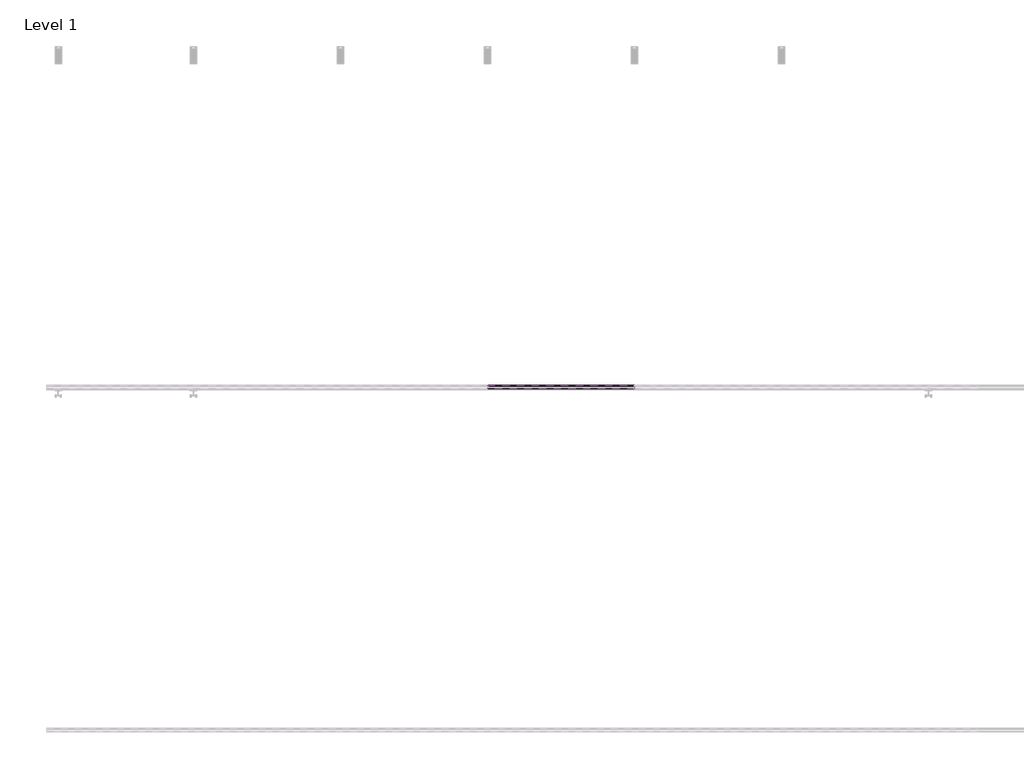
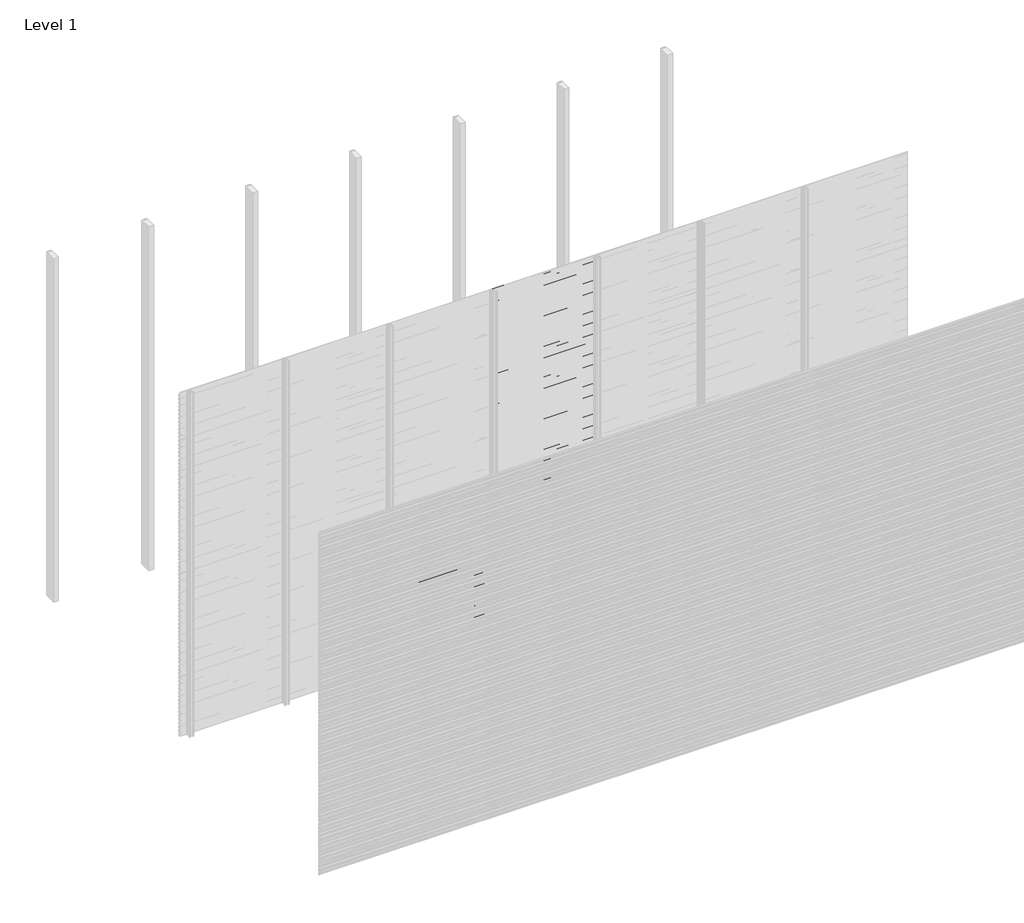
# One storey, part 27 of 96: 77 proxies.
"""IFC4 building model written with IfcOpenShell, lengths in millimetres."""

import ifcopenshell
import ifcopenshell.guid

model = None  # the IFC model being written
_history = None  # IfcOwnerHistory: only IFC2X3 demands one
_inside = {}  # id of a spatial element -> (the spatial element, [elements in it])
_under = {}  # id of a project, library or spatial element -> (it, [spatial elements below it])
_declared = {}  # id of a project -> (the project, [libraries it declares])
_typed = {}  # id of a type object -> (the type object, [elements of that type])
_made_of = {}  # id of a material, layer set ... -> (it, [elements and type objects made of it])


def new_model(schema):
    """Start an empty IFC model of exactly this schema.

    Asked for "IFC4X3", IfcOpenShell would pick the latest addendum, in which some entities
    have other attributes; the version numbers below select the first issue.
    IFC2X3 requires an IfcOwnerHistory on every rooted entity: one is made here for all.
    """
    global model, _history
    if schema == "IFC4X3":
        model = ifcopenshell.file(schema_version=(4, 3, 0, 0))
    else:
        model = ifcopenshell.file(schema=schema)
    _inside.clear()
    _under.clear()
    _declared.clear()
    _typed.clear()
    _made_of.clear()
    _history = None
    if model.schema == "IFC2X3":
        org = make("IfcOrganization", Name="unknown")
        user = make(
            "IfcPersonAndOrganization",
            ThePerson=make("IfcPerson", FamilyName="unknown"),
            TheOrganization=org,
        )
        app = make(
            "IfcApplication",
            ApplicationDeveloper=org,
            Version="unknown",
            ApplicationFullName="unknown",
            ApplicationIdentifier="unknown",
        )
        _history = make(
            "IfcOwnerHistory",
            OwningUser=user,
            OwningApplication=app,
            ChangeAction="ADDED",
            CreationDate=0,
        )
    return model


def make(cls, **values):
    """One entity of the class cls with the attributes given. An attribute that is None is left unset."""
    return model.create_entity(
        cls, **{name: value for name, value in values.items() if value is not None}
    )


def rooted(cls, **values):
    """An entity with a GlobalId (a new one), such as an element, a storey or a relation."""
    return make(cls, GlobalId=ifcopenshell.guid.new(), OwnerHistory=_history, **values)


def si_unit(unit_type, name, prefix=None):
    """IfcSIUnit, for example si_unit("LENGTHUNIT", "METRE", prefix="MILLI")."""
    return make("IfcSIUnit", UnitType=unit_type, Prefix=prefix, Name=name)


def assignment(units):
    """IfcUnitAssignment: the units of a project."""
    return None if units is None else make("IfcUnitAssignment", Units=units)


def point(xyz):
    """IfcCartesianPoint."""
    return None if xyz is None else make("IfcCartesianPoint", Coordinates=xyz)


def direction(xyz):
    """IfcDirection."""
    return None if xyz is None else make("IfcDirection", DirectionRatios=xyz)


def frame(location, z_axis=None, x_axis=None):
    """IfcAxis2Placement3D, a coordinate frame: its origin and axes. An axis left out is left unset."""
    return make(
        "IfcAxis2Placement3D",
        Location=point(location),
        Axis=direction(z_axis),
        RefDirection=direction(x_axis),
    )


def origin():
    """The frame at (0, 0, 0) with its axes left unset."""
    return frame((0.0, 0.0, 0.0))


def place(relative_to, where):
    """IfcLocalPlacement: puts the frame where relative to a parent placement (None: the world)."""
    return make(
        "IfcLocalPlacement", PlacementRelTo=relative_to, RelativePlacement=where
    )


def context(
    kind, dimensions, precision=None, world=None, true_north=None, identifier=None
):
    """IfcGeometricRepresentationContext, for example the 3D "Model" context."""
    return make(
        "IfcGeometricRepresentationContext",
        ContextIdentifier=identifier,
        ContextType=kind,
        CoordinateSpaceDimension=dimensions,
        Precision=precision,
        WorldCoordinateSystem=world,
        TrueNorth=true_north,
    )


def project(units=None, contexts=None):
    """IfcProject with its units and contexts."""
    return rooted(
        "IfcProject",
        Name="project",
        RepresentationContexts=contexts,
        UnitsInContext=assignment(units),
    )


def spatial(cls, under=None, at=None, **own):
    """A site, building, storey or space (cls), placed at a placement, below another one or the project."""
    s = rooted(cls, ObjectPlacement=at, **own)
    if under is not None:
        _under.setdefault(under.id(), (under, []))[1].append(s)
    return s


def polyline(points):
    """IfcPolyline through the points."""
    return make("IfcPolyline", Points=[point(p) for p in points])


def outline(outer, holes=None, kind="AREA"):
    """IfcArbitraryClosedProfileDef: a profile drawn as a closed curve; with holes, ...WithVoids."""
    if holes is None:
        return make("IfcArbitraryClosedProfileDef", ProfileType=kind, OuterCurve=outer)
    return make(
        "IfcArbitraryProfileDefWithVoids",
        ProfileType=kind,
        OuterCurve=outer,
        InnerCurves=holes,
    )


def extrude(swept, where, along, depth):
    """IfcExtrudedAreaSolid: the profile swept, set in the frame where, extruded along a direction by depth."""
    return make(
        "IfcExtrudedAreaSolid",
        SweptArea=swept,
        Position=where,
        ExtrudedDirection=direction(along),
        Depth=depth,
    )


def shape(context_of_items, identifier, shape_type, items):
    """IfcShapeRepresentation: the items that make up one representation, for example the "Body"."""
    return make(
        "IfcShapeRepresentation",
        ContextOfItems=context_of_items,
        RepresentationIdentifier=identifier,
        RepresentationType=shape_type,
        Items=items,
    )


def made_of(thing, what):
    """Note that an element or type object is made of a material, layer set ...; save() writes the relation."""
    if what is not None:
        _made_of.setdefault(what.id(), (what, []))[1].append(thing)
    return thing


def element(
    cls,
    number,
    at=None,
    inside=None,
    cuts=None,
    type_object=None,
    material=None,
    context=None,
    identifier="Body",
    shape_type=None,
    held_by="IfcProductDefinitionShape",
    body=None,
    shapes=None,
    **own,
):
    """One element of the class cls, such as IfcWall. Its Tag is "e" and its number.

    at: its placement. inside: the storey or other place that contains it. cuts: it is an
    opening in that element (IfcRelVoidsElement). A single representation is given by context,
    identifier, shape_type and body (its items); several are given by shapes. held_by: the class
    of the entity that holds the representations. save() writes the other relations.
    """
    e = rooted(cls, Tag="e%d" % number, ObjectPlacement=at, **own)
    if body is not None:
        shapes = [shape(context, identifier, shape_type, body)]
    if shapes is not None:
        e.Representation = make(held_by, Representations=shapes)
    if inside is not None:
        _inside.setdefault(inside.id(), (inside, []))[1].append(e)
    if cuts is not None:
        rooted(
            "IfcRelVoidsElement", RelatingBuildingElement=cuts, RelatedOpeningElement=e
        )
    if type_object is not None:
        _typed.setdefault(type_object.id(), (type_object, []))[1].append(e)
    return made_of(e, material)


def aggregate(whole, parts):
    """IfcRelAggregates: a whole, such as a stair, and the parts it consists of."""
    return rooted("IfcRelAggregates", RelatingObject=whole, RelatedObjects=parts)


def save(model, path):
    """Write the relations noted so far, then the file.

    IfcRelAggregates (storeys below a building ...), IfcRelContainedInSpatialStructure (elements
    in a storey), IfcRelDefinesByType, IfcRelAssociatesMaterial and IfcRelDeclares: one each for
    every whole, place, type object, material and project.
    """
    for whole, parts in _under.values():
        aggregate(whole, parts)
    for where, things in _inside.values():
        rooted(
            "IfcRelContainedInSpatialStructure",
            RelatedElements=things,
            RelatingStructure=where,
        )
    for kind, things in _typed.values():
        rooted("IfcRelDefinesByType", RelatedObjects=things, RelatingType=kind)
    for what, things in _made_of.values():
        rooted("IfcRelAssociatesMaterial", RelatedObjects=things, RelatingMaterial=what)
    for by, libraries in _declared.values():
        rooted("IfcRelDeclares", RelatingContext=by, RelatedDefinitions=libraries)
    model.write(path)


model = new_model("IFC4")

# Units and contexts
model_context = context("Model", 3, world=origin())
ifc_project = project(units=[si_unit("LENGTHUNIT", "METRE", prefix="MILLI")], contexts=[model_context])

# Site, building, storey
site = spatial("IfcSite", under=ifc_project)
building = spatial("IfcBuilding", under=site)
storey = spatial("IfcBuildingStorey", under=building, Name="Level 1", Elevation=0.0)

# Proxies
placement = place(None, origin())
element("IfcBuildingElementProxy", 1, Name="Wall Sweeps", at=placement, inside=storey, context=model_context, shape_type="SweptSolid", body=[
    extrude(outline(polyline([(-41977.6, 674.0655033), (-41977.6, 659.7779188), (-41982.4114965, 657.0), (-41982.4114965, 658.2701706), (-41978.85, 660.3264016), (-41978.85, 673.3437382), (-41998.0, 684.4000799), (-41998.0, 699.3), (-41996.75, 699.3), (-41996.75, 685.1217609), (-41977.6, 674.0655033)])), frame((1714.2857143, 0.0, 0.0), z_axis=(1.0, 0.0, 0.0), x_axis=(0.0, 1.0, 0.0)), (0.0, 0.0, 1.0), 857.1428571),
])
element("IfcBuildingElementProxy", 2, Name="Wall Sweeps", at=placement, inside=storey, context=model_context, shape_type="SweptSolid", body=[
    extrude(outline(polyline([(-41977.6, 640.7655033), (-41977.6, 626.4779188), (-41982.4114965, 623.7), (-41982.4114965, 624.9701706), (-41978.85, 627.0264016), (-41978.85, 640.0437382), (-41998.0, 651.1000799), (-41998.0, 666.0), (-41996.75, 666.0), (-41996.75, 651.8217609), (-41977.6, 640.7655033)])), frame((1714.2857143, 0.0, 0.0), z_axis=(1.0, 0.0, 0.0), x_axis=(0.0, 1.0, 0.0)), (0.0, 0.0, 1.0), 857.1428571),
])
element("IfcBuildingElementProxy", 3, Name="Wall Sweeps", at=placement, inside=storey, context=model_context, shape_type="SweptSolid", body=[
    extrude(outline(polyline([(-41977.6, 607.4655033), (-41977.6, 593.1779188), (-41982.4114965, 590.4), (-41982.4114965, 591.6701706), (-41978.85, 593.7264016), (-41978.85, 606.7437382), (-41998.0, 617.8000799), (-41998.0, 632.7), (-41996.75, 632.7), (-41996.75, 618.5217609), (-41977.6, 607.4655033)])), frame((1714.2857143, 0.0, 0.0), z_axis=(1.0, 0.0, 0.0), x_axis=(0.0, 1.0, 0.0)), (0.0, 0.0, 1.0), 857.1428571),
])
element("IfcBuildingElementProxy", 4, Name="Wall Sweeps", at=placement, inside=storey, context=model_context, shape_type="SweptSolid", body=[
    extrude(outline(polyline([(-41977.6, 574.1655033), (-41977.6, 559.8779188), (-41982.4114965, 557.1), (-41982.4114965, 558.3701706), (-41978.85, 560.4264016), (-41978.85, 573.4437382), (-41998.0, 584.5000799), (-41998.0, 599.4), (-41996.75, 599.4), (-41996.75, 585.2217609), (-41977.6, 574.1655033)])), frame((1714.2857143, 0.0, 0.0), z_axis=(1.0, 0.0, 0.0), x_axis=(0.0, 1.0, 0.0)), (0.0, 0.0, 1.0), 857.1428571),
])
element("IfcBuildingElementProxy", 5, Name="Wall Sweeps", at=placement, inside=storey, context=model_context, shape_type="SweptSolid", body=[
    extrude(outline(polyline([(-41977.6, 540.8655033), (-41977.6, 526.5779188), (-41982.4114965, 523.8), (-41982.4114965, 525.0701706), (-41978.85, 527.1264016), (-41978.85, 540.1437382), (-41998.0, 551.2000799), (-41998.0, 566.1), (-41996.75, 566.1), (-41996.75, 551.9217609), (-41977.6, 540.8655033)])), frame((1714.2857143, 0.0, 0.0), z_axis=(1.0, 0.0, 0.0), x_axis=(0.0, 1.0, 0.0)), (0.0, 0.0, 1.0), 857.1428571),
])
element("IfcBuildingElementProxy", 6, Name="Wall Sweeps", at=placement, inside=storey, context=model_context, shape_type="SweptSolid", body=[
    extrude(outline(polyline([(-41977.6, 507.5655033), (-41977.6, 493.2779188), (-41982.4114965, 490.5), (-41982.4114965, 491.7701706), (-41978.85, 493.8264016), (-41978.85, 506.8437382), (-41998.0, 517.9000799), (-41998.0, 532.8), (-41996.75, 532.8), (-41996.75, 518.6217609), (-41977.6, 507.5655033)])), frame((1714.2857143, 0.0, 0.0), z_axis=(1.0, 0.0, 0.0), x_axis=(0.0, 1.0, 0.0)), (0.0, 0.0, 1.0), 857.1428571),
])
element("IfcBuildingElementProxy", 7, Name="Wall Sweeps", at=placement, inside=storey, context=model_context, shape_type="SweptSolid", body=[
    extrude(outline(polyline([(-41977.6, 474.2655033), (-41977.6, 459.9779188), (-41982.4114965, 457.2), (-41982.4114965, 458.4701706), (-41978.85, 460.5264016), (-41978.85, 473.5437382), (-41998.0, 484.6000799), (-41998.0, 499.5), (-41996.75, 499.5), (-41996.75, 485.3217609), (-41977.6, 474.2655033)])), frame((1714.2857143, 0.0, 0.0), z_axis=(1.0, 0.0, 0.0), x_axis=(0.0, 1.0, 0.0)), (0.0, 0.0, 1.0), 857.1428571),
])
element("IfcBuildingElementProxy", 8, Name="Wall Sweeps", at=placement, inside=storey, context=model_context, shape_type="SweptSolid", body=[
    extrude(outline(polyline([(-41977.6, 440.9655033), (-41977.6, 426.6779188), (-41982.4114965, 423.9), (-41982.4114965, 425.1701706), (-41978.85, 427.2264016), (-41978.85, 440.2437382), (-41998.0, 451.3000799), (-41998.0, 466.2), (-41996.75, 466.2), (-41996.75, 452.0217609), (-41977.6, 440.9655033)])), frame((1714.2857143, 0.0, 0.0), z_axis=(1.0, 0.0, 0.0), x_axis=(0.0, 1.0, 0.0)), (0.0, 0.0, 1.0), 857.1428571),
])
element("IfcBuildingElementProxy", 9, Name="Wall Sweeps", at=placement, inside=storey, context=model_context, shape_type="SweptSolid", body=[
    extrude(outline(polyline([(-41977.6, 407.6655033), (-41977.6, 393.3779188), (-41982.4114965, 390.6), (-41982.4114965, 391.8701706), (-41978.85, 393.9264016), (-41978.85, 406.9437382), (-41998.0, 418.0000799), (-41998.0, 432.9), (-41996.75, 432.9), (-41996.75, 418.7217609), (-41977.6, 407.6655033)])), frame((1714.2857143, 0.0, 0.0), z_axis=(1.0, 0.0, 0.0), x_axis=(0.0, 1.0, 0.0)), (0.0, 0.0, 1.0), 857.1428571),
])
element("IfcBuildingElementProxy", 10, Name="Wall Sweeps", at=placement, inside=storey, context=model_context, shape_type="SweptSolid", body=[
    extrude(outline(polyline([(-41977.6, 374.3655033), (-41977.6, 360.0779188), (-41982.4114965, 357.3), (-41982.4114965, 358.5701706), (-41978.85, 360.6264016), (-41978.85, 373.6437382), (-41998.0, 384.7000799), (-41998.0, 399.6), (-41996.75, 399.6), (-41996.75, 385.4217609), (-41977.6, 374.3655033)])), frame((1714.2857143, 0.0, 0.0), z_axis=(1.0, 0.0, 0.0), x_axis=(0.0, 1.0, 0.0)), (0.0, 0.0, 1.0), 857.1428571),
])
element("IfcBuildingElementProxy", 11, Name="Wall Sweeps", at=placement, inside=storey, context=model_context, shape_type="SweptSolid", body=[
    extrude(outline(polyline([(-41977.6, 341.0655033), (-41977.6, 326.7779188), (-41982.4114965, 324.0), (-41982.4114965, 325.2701706), (-41978.85, 327.3264016), (-41978.85, 340.3437382), (-41998.0, 351.4000799), (-41998.0, 366.3), (-41996.75, 366.3), (-41996.75, 352.1217609), (-41977.6, 341.0655033)])), frame((1714.2857143, 0.0, 0.0), z_axis=(1.0, 0.0, 0.0), x_axis=(0.0, 1.0, 0.0)), (0.0, 0.0, 1.0), 857.1428571),
])
element("IfcBuildingElementProxy", 12, Name="Wall Sweeps", at=placement, inside=storey, context=model_context, shape_type="SweptSolid", body=[
    extrude(outline(polyline([(-41977.6, 307.7655033), (-41977.6, 293.4779188), (-41982.4114965, 290.7), (-41982.4114965, 291.9701706), (-41978.85, 294.0264016), (-41978.85, 307.0437382), (-41998.0, 318.1000799), (-41998.0, 333.0), (-41996.75, 333.0), (-41996.75, 318.8217609), (-41977.6, 307.7655033)])), frame((1714.2857143, 0.0, 0.0), z_axis=(1.0, 0.0, 0.0), x_axis=(0.0, 1.0, 0.0)), (0.0, 0.0, 1.0), 857.1428571),
])
element("IfcBuildingElementProxy", 13, Name="Wall Sweeps", at=placement, inside=storey, context=model_context, shape_type="SweptSolid", body=[
    extrude(outline(polyline([(-41977.6, 274.4655033), (-41977.6, 260.1779188), (-41982.4114965, 257.4), (-41982.4114965, 258.6701706), (-41978.85, 260.7264016), (-41978.85, 273.7437382), (-41998.0, 284.8000799), (-41998.0, 299.7), (-41996.75, 299.7), (-41996.75, 285.5217609), (-41977.6, 274.4655033)])), frame((1714.2857143, 0.0, 0.0), z_axis=(1.0, 0.0, 0.0), x_axis=(0.0, 1.0, 0.0)), (0.0, 0.0, 1.0), 857.1428571),
])
element("IfcBuildingElementProxy", 14, Name="Wall Sweeps", at=placement, inside=storey, context=model_context, shape_type="SweptSolid", body=[
    extrude(outline(polyline([(-41977.6, 241.1655033), (-41977.6, 226.8779188), (-41982.4114965, 224.1), (-41982.4114965, 225.3701706), (-41978.85, 227.4264016), (-41978.85, 240.4437382), (-41998.0, 251.5000799), (-41998.0, 266.4), (-41996.75, 266.4), (-41996.75, 252.2217609), (-41977.6, 241.1655033)])), frame((1714.2857143, 0.0, 0.0), z_axis=(1.0, 0.0, 0.0), x_axis=(0.0, 1.0, 0.0)), (0.0, 0.0, 1.0), 857.1428571),
])
element("IfcBuildingElementProxy", 15, Name="Wall Sweeps", at=placement, inside=storey, context=model_context, shape_type="SweptSolid", body=[
    extrude(outline(polyline([(-41977.6, 207.8655033), (-41977.6, 193.5779188), (-41982.4114965, 190.8), (-41982.4114965, 192.0701706), (-41978.85, 194.1264016), (-41978.85, 207.1437382), (-41998.0, 218.2000799), (-41998.0, 233.1), (-41996.75, 233.1), (-41996.75, 218.9217609), (-41977.6, 207.8655033)])), frame((1714.2857143, 0.0, 0.0), z_axis=(1.0, 0.0, 0.0), x_axis=(0.0, 1.0, 0.0)), (0.0, 0.0, 1.0), 857.1428571),
])
element("IfcBuildingElementProxy", 16, Name="Wall Sweeps", at=placement, inside=storey, context=model_context, shape_type="SweptSolid", body=[
    extrude(outline(polyline([(-41977.6, 174.5655033), (-41977.6, 160.2779188), (-41982.4114965, 157.5), (-41982.4114965, 158.7701706), (-41978.85, 160.8264016), (-41978.85, 173.8437382), (-41998.0, 184.9000799), (-41998.0, 199.8), (-41996.75, 199.8), (-41996.75, 185.6217609), (-41977.6, 174.5655033)])), frame((1714.2857143, 0.0, 0.0), z_axis=(1.0, 0.0, 0.0), x_axis=(0.0, 1.0, 0.0)), (0.0, 0.0, 1.0), 857.1428571),
])
element("IfcBuildingElementProxy", 17, Name="Wall Sweeps", at=placement, inside=storey, context=model_context, shape_type="SweptSolid", body=[
    extrude(outline(polyline([(-41977.6, 141.2655033), (-41977.6, 126.9779188), (-41982.4114965, 124.2), (-41982.4114965, 125.4701706), (-41978.85, 127.5264016), (-41978.85, 140.5437382), (-41998.0, 151.6000799), (-41998.0, 166.5), (-41996.75, 166.5), (-41996.75, 152.3217609), (-41977.6, 141.2655033)])), frame((1714.2857143, 0.0, 0.0), z_axis=(1.0, 0.0, 0.0), x_axis=(0.0, 1.0, 0.0)), (0.0, 0.0, 1.0), 857.1428571),
])
element("IfcBuildingElementProxy", 18, Name="Wall Sweeps", at=placement, inside=storey, context=model_context, shape_type="SweptSolid", body=[
    extrude(outline(polyline([(-41977.6, 107.9655033), (-41977.6, 93.6779188), (-41982.4114965, 90.9), (-41982.4114965, 92.1701706), (-41978.85, 94.2264016), (-41978.85, 107.2437382), (-41998.0, 118.3000799), (-41998.0, 133.2), (-41996.75, 133.2), (-41996.75, 119.0217609), (-41977.6, 107.9655033)])), frame((1714.2857143, 0.0, 0.0), z_axis=(1.0, 0.0, 0.0), x_axis=(0.0, 1.0, 0.0)), (0.0, 0.0, 1.0), 857.1428571),
])
element("IfcBuildingElementProxy", 19, Name="Wall Sweeps", at=placement, inside=storey, context=model_context, shape_type="SweptSolid", body=[
    extrude(outline(polyline([(-41977.6, 74.6655033), (-41977.6, 60.3779188), (-41982.4114965, 57.6), (-41982.4114965, 58.8701706), (-41978.85, 60.9264016), (-41978.85, 73.9437382), (-41998.0, 85.0000799), (-41998.0, 99.9), (-41996.75, 99.9), (-41996.75, 85.7217609), (-41977.6, 74.6655033)])), frame((1714.2857143, 0.0, 0.0), z_axis=(1.0, 0.0, 0.0), x_axis=(0.0, 1.0, 0.0)), (0.0, 0.0, 1.0), 857.1428571),
])
element("IfcBuildingElementProxy", 20, Name="Wall Sweeps", at=placement, inside=storey, context=model_context, shape_type="SweptSolid", body=[
    extrude(outline(polyline([(-41977.6, 41.3655033), (-41977.6, 27.0779188), (-41982.4114965, 24.3), (-41982.4114965, 25.5701706), (-41978.85, 27.6264016), (-41978.85, 40.6437382), (-41998.0, 51.7000799), (-41998.0, 66.6), (-41996.75, 66.6), (-41996.75, 52.4217609), (-41977.6, 41.3655033)])), frame((1714.2857143, 0.0, 0.0), z_axis=(1.0, 0.0, 0.0), x_axis=(0.0, 1.0, 0.0)), (0.0, 0.0, 1.0), 857.1428571),
])
element("IfcBuildingElementProxy", 21, Name="Wall Sweeps", at=placement, inside=storey, context=model_context, shape_type="SweptSolid", body=[
    extrude(outline(polyline([(-41977.6, 8.0655033), (-41977.6, -6.2220812), (-41982.4114965, -9.0), (-41982.4114965, -7.7298294), (-41978.85, -5.6735984), (-41978.85, 7.3437382), (-41998.0, 18.4000799), (-41998.0, 33.3), (-41996.75, 33.3), (-41996.75, 19.1217609), (-41977.6, 8.0655033)])), frame((1714.2857143, 0.0, 0.0), z_axis=(1.0, 0.0, 0.0), x_axis=(0.0, 1.0, 0.0)), (0.0, 0.0, 1.0), 857.1428571),
])
element("IfcBuildingElementProxy", 22, Name="Wall Sweeps", at=placement, inside=storey, context=model_context, shape_type="SweptSolid", body=[
    extrude(outline(polyline([(-41977.6, 2971.7655033), (-41977.6, 2957.4779188), (-41982.4114965, 2954.7), (-41982.4114965, 2955.9701706), (-41978.85, 2958.0264016), (-41978.85, 2971.0437382), (-41998.0, 2982.1000799), (-41998.0, 2997.0), (-41996.75, 2997.0), (-41996.75, 2982.8217609), (-41977.6, 2971.7655033)])), frame((2571.4285714, 0.0, 0.0), z_axis=(1.0, 0.0, 0.0), x_axis=(0.0, 1.0, 0.0)), (0.0, 0.0, 1.0), 857.1428571),
])
element("IfcBuildingElementProxy", 23, Name="Wall Sweeps", at=placement, inside=storey, context=model_context, shape_type="SweptSolid", body=[
    extrude(outline(polyline([(-41977.6, 2938.4655033), (-41977.6, 2924.1779188), (-41982.4114965, 2921.4), (-41982.4114965, 2922.6701706), (-41978.85, 2924.7264016), (-41978.85, 2937.7437382), (-41998.0, 2948.8000799), (-41998.0, 2963.7), (-41996.75, 2963.7), (-41996.75, 2949.5217609), (-41977.6, 2938.4655033)])), frame((2571.4285714, 0.0, 0.0), z_axis=(1.0, 0.0, 0.0), x_axis=(0.0, 1.0, 0.0)), (0.0, 0.0, 1.0), 857.1428571),
])
element("IfcBuildingElementProxy", 24, Name="Wall Sweeps", at=placement, inside=storey, context=model_context, shape_type="SweptSolid", body=[
    extrude(outline(polyline([(-41977.6, 2905.1655033), (-41977.6, 2890.8779188), (-41982.4114965, 2888.1), (-41982.4114965, 2889.3701706), (-41978.85, 2891.4264016), (-41978.85, 2904.4437382), (-41998.0, 2915.5000799), (-41998.0, 2930.4), (-41996.75, 2930.4), (-41996.75, 2916.2217609), (-41977.6, 2905.1655033)])), frame((2571.4285714, 0.0, 0.0), z_axis=(1.0, 0.0, 0.0), x_axis=(0.0, 1.0, 0.0)), (0.0, 0.0, 1.0), 857.1428571),
])
element("IfcBuildingElementProxy", 25, Name="Wall Sweeps", at=placement, inside=storey, context=model_context, shape_type="SweptSolid", body=[
    extrude(outline(polyline([(-41977.6, 2871.8655033), (-41977.6, 2857.5779188), (-41982.4114965, 2854.8), (-41982.4114965, 2856.0701706), (-41978.85, 2858.1264016), (-41978.85, 2871.1437382), (-41998.0, 2882.2000799), (-41998.0, 2897.1), (-41996.75, 2897.1), (-41996.75, 2882.9217609), (-41977.6, 2871.8655033)])), frame((2571.4285714, 0.0, 0.0), z_axis=(1.0, 0.0, 0.0), x_axis=(0.0, 1.0, 0.0)), (0.0, 0.0, 1.0), 857.1428571),
])
element("IfcBuildingElementProxy", 26, Name="Wall Sweeps", at=placement, inside=storey, context=model_context, shape_type="SweptSolid", body=[
    extrude(outline(polyline([(-41977.6, 2838.5655033), (-41977.6, 2824.2779188), (-41982.4114965, 2821.5), (-41982.4114965, 2822.7701706), (-41978.85, 2824.8264016), (-41978.85, 2837.8437382), (-41998.0, 2848.9000799), (-41998.0, 2863.8), (-41996.75, 2863.8), (-41996.75, 2849.6217609), (-41977.6, 2838.5655033)])), frame((2571.4285714, 0.0, 0.0), z_axis=(1.0, 0.0, 0.0), x_axis=(0.0, 1.0, 0.0)), (0.0, 0.0, 1.0), 857.1428571),
])
element("IfcBuildingElementProxy", 27, Name="Wall Sweeps", at=placement, inside=storey, context=model_context, shape_type="SweptSolid", body=[
    extrude(outline(polyline([(-41977.6, 2805.2655033), (-41977.6, 2790.9779188), (-41982.4114965, 2788.2), (-41982.4114965, 2789.4701706), (-41978.85, 2791.5264016), (-41978.85, 2804.5437382), (-41998.0, 2815.6000799), (-41998.0, 2830.5), (-41996.75, 2830.5), (-41996.75, 2816.3217609), (-41977.6, 2805.2655033)])), frame((2571.4285714, 0.0, 0.0), z_axis=(1.0, 0.0, 0.0), x_axis=(0.0, 1.0, 0.0)), (0.0, 0.0, 1.0), 857.1428571),
])
element("IfcBuildingElementProxy", 28, Name="Wall Sweeps", at=placement, inside=storey, context=model_context, shape_type="SweptSolid", body=[
    extrude(outline(polyline([(-41977.6, 2771.9655033), (-41977.6, 2757.6779188), (-41982.4114965, 2754.9), (-41982.4114965, 2756.1701706), (-41978.85, 2758.2264016), (-41978.85, 2771.2437382), (-41998.0, 2782.3000799), (-41998.0, 2797.2), (-41996.75, 2797.2), (-41996.75, 2783.0217609), (-41977.6, 2771.9655033)])), frame((2571.4285714, 0.0, 0.0), z_axis=(1.0, 0.0, 0.0), x_axis=(0.0, 1.0, 0.0)), (0.0, 0.0, 1.0), 857.1428571),
])
element("IfcBuildingElementProxy", 29, Name="Wall Sweeps", at=placement, inside=storey, context=model_context, shape_type="SweptSolid", body=[
    extrude(outline(polyline([(-41977.6, 2738.6655033), (-41977.6, 2724.3779188), (-41982.4114965, 2721.6), (-41982.4114965, 2722.8701706), (-41978.85, 2724.9264016), (-41978.85, 2737.9437382), (-41998.0, 2749.0000799), (-41998.0, 2763.9), (-41996.75, 2763.9), (-41996.75, 2749.7217609), (-41977.6, 2738.6655033)])), frame((2571.4285714, 0.0, 0.0), z_axis=(1.0, 0.0, 0.0), x_axis=(0.0, 1.0, 0.0)), (0.0, 0.0, 1.0), 857.1428571),
])
element("IfcBuildingElementProxy", 30, Name="Wall Sweeps", at=placement, inside=storey, context=model_context, shape_type="SweptSolid", body=[
    extrude(outline(polyline([(-41977.6, 2705.3655033), (-41977.6, 2691.0779188), (-41982.4114965, 2688.3), (-41982.4114965, 2689.5701706), (-41978.85, 2691.6264016), (-41978.85, 2704.6437382), (-41998.0, 2715.7000799), (-41998.0, 2730.6), (-41996.75, 2730.6), (-41996.75, 2716.4217609), (-41977.6, 2705.3655033)])), frame((2571.4285714, 0.0, 0.0), z_axis=(1.0, 0.0, 0.0), x_axis=(0.0, 1.0, 0.0)), (0.0, 0.0, 1.0), 857.1428571),
])
element("IfcBuildingElementProxy", 31, Name="Wall Sweeps", at=placement, inside=storey, context=model_context, shape_type="SweptSolid", body=[
    extrude(outline(polyline([(-41977.6, 2672.0655033), (-41977.6, 2657.7779188), (-41982.4114965, 2655.0), (-41982.4114965, 2656.2701706), (-41978.85, 2658.3264016), (-41978.85, 2671.3437382), (-41998.0, 2682.4000799), (-41998.0, 2697.3), (-41996.75, 2697.3), (-41996.75, 2683.1217609), (-41977.6, 2672.0655033)])), frame((2571.4285714, 0.0, 0.0), z_axis=(1.0, 0.0, 0.0), x_axis=(0.0, 1.0, 0.0)), (0.0, 0.0, 1.0), 857.1428571),
])
element("IfcBuildingElementProxy", 32, Name="Wall Sweeps", at=placement, inside=storey, context=model_context, shape_type="SweptSolid", body=[
    extrude(outline(polyline([(-41977.6, 2638.7655033), (-41977.6, 2624.4779188), (-41982.4114965, 2621.7), (-41982.4114965, 2622.9701706), (-41978.85, 2625.0264016), (-41978.85, 2638.0437382), (-41998.0, 2649.1000799), (-41998.0, 2664.0), (-41996.75, 2664.0), (-41996.75, 2649.8217609), (-41977.6, 2638.7655033)])), frame((2571.4285714, 0.0, 0.0), z_axis=(1.0, 0.0, 0.0), x_axis=(0.0, 1.0, 0.0)), (0.0, 0.0, 1.0), 857.1428571),
])
element("IfcBuildingElementProxy", 33, Name="Wall Sweeps", at=placement, inside=storey, context=model_context, shape_type="SweptSolid", body=[
    extrude(outline(polyline([(-41977.6, 2605.4655033), (-41977.6, 2591.1779188), (-41982.4114965, 2588.4), (-41982.4114965, 2589.6701706), (-41978.85, 2591.7264016), (-41978.85, 2604.7437382), (-41998.0, 2615.8000799), (-41998.0, 2630.7), (-41996.75, 2630.7), (-41996.75, 2616.5217609), (-41977.6, 2605.4655033)])), frame((2571.4285714, 0.0, 0.0), z_axis=(1.0, 0.0, 0.0), x_axis=(0.0, 1.0, 0.0)), (0.0, 0.0, 1.0), 857.1428571),
])
element("IfcBuildingElementProxy", 34, Name="Wall Sweeps", at=placement, inside=storey, context=model_context, shape_type="SweptSolid", body=[
    extrude(outline(polyline([(-41977.6, 2572.1655033), (-41977.6, 2557.8779188), (-41982.4114965, 2555.1), (-41982.4114965, 2556.3701706), (-41978.85, 2558.4264016), (-41978.85, 2571.4437382), (-41998.0, 2582.5000799), (-41998.0, 2597.4), (-41996.75, 2597.4), (-41996.75, 2583.2217609), (-41977.6, 2572.1655033)])), frame((2571.4285714, 0.0, 0.0), z_axis=(1.0, 0.0, 0.0), x_axis=(0.0, 1.0, 0.0)), (0.0, 0.0, 1.0), 857.1428571),
])
element("IfcBuildingElementProxy", 35, Name="Wall Sweeps", at=placement, inside=storey, context=model_context, shape_type="SweptSolid", body=[
    extrude(outline(polyline([(-41977.6, 2538.8655033), (-41977.6, 2524.5779188), (-41982.4114965, 2521.8), (-41982.4114965, 2523.0701706), (-41978.85, 2525.1264016), (-41978.85, 2538.1437382), (-41998.0, 2549.2000799), (-41998.0, 2564.1), (-41996.75, 2564.1), (-41996.75, 2549.9217609), (-41977.6, 2538.8655033)])), frame((2571.4285714, 0.0, 0.0), z_axis=(1.0, 0.0, 0.0), x_axis=(0.0, 1.0, 0.0)), (0.0, 0.0, 1.0), 857.1428571),
])
element("IfcBuildingElementProxy", 36, Name="Wall Sweeps", at=placement, inside=storey, context=model_context, shape_type="SweptSolid", body=[
    extrude(outline(polyline([(-41977.6, 2505.5655033), (-41977.6, 2491.2779188), (-41982.4114965, 2488.5), (-41982.4114965, 2489.7701706), (-41978.85, 2491.8264016), (-41978.85, 2504.8437382), (-41998.0, 2515.9000799), (-41998.0, 2530.8), (-41996.75, 2530.8), (-41996.75, 2516.6217609), (-41977.6, 2505.5655033)])), frame((2571.4285714, 0.0, 0.0), z_axis=(1.0, 0.0, 0.0), x_axis=(0.0, 1.0, 0.0)), (0.0, 0.0, 1.0), 857.1428571),
])
element("IfcBuildingElementProxy", 37, Name="Wall Sweeps", at=placement, inside=storey, context=model_context, shape_type="SweptSolid", body=[
    extrude(outline(polyline([(-41977.6, 2472.2655033), (-41977.6, 2457.9779188), (-41982.4114965, 2455.2), (-41982.4114965, 2456.4701706), (-41978.85, 2458.5264016), (-41978.85, 2471.5437382), (-41998.0, 2482.6000799), (-41998.0, 2497.5), (-41996.75, 2497.5), (-41996.75, 2483.3217609), (-41977.6, 2472.2655033)])), frame((2571.4285714, 0.0, 0.0), z_axis=(1.0, 0.0, 0.0), x_axis=(0.0, 1.0, 0.0)), (0.0, 0.0, 1.0), 857.1428571),
])
element("IfcBuildingElementProxy", 38, Name="Wall Sweeps", at=placement, inside=storey, context=model_context, shape_type="SweptSolid", body=[
    extrude(outline(polyline([(-41977.6, 2438.9655033), (-41977.6, 2424.6779188), (-41982.4114965, 2421.9), (-41982.4114965, 2423.1701706), (-41978.85, 2425.2264016), (-41978.85, 2438.2437382), (-41998.0, 2449.3000799), (-41998.0, 2464.2), (-41996.75, 2464.2), (-41996.75, 2450.0217609), (-41977.6, 2438.9655033)])), frame((2571.4285714, 0.0, 0.0), z_axis=(1.0, 0.0, 0.0), x_axis=(0.0, 1.0, 0.0)), (0.0, 0.0, 1.0), 857.1428571),
])
element("IfcBuildingElementProxy", 39, Name="Wall Sweeps", at=placement, inside=storey, context=model_context, shape_type="SweptSolid", body=[
    extrude(outline(polyline([(-41977.6, 2405.6655033), (-41977.6, 2391.3779188), (-41982.4114965, 2388.6), (-41982.4114965, 2389.8701706), (-41978.85, 2391.9264016), (-41978.85, 2404.9437382), (-41998.0, 2416.0000799), (-41998.0, 2430.9), (-41996.75, 2430.9), (-41996.75, 2416.7217609), (-41977.6, 2405.6655033)])), frame((2571.4285714, 0.0, 0.0), z_axis=(1.0, 0.0, 0.0), x_axis=(0.0, 1.0, 0.0)), (0.0, 0.0, 1.0), 857.1428571),
])
element("IfcBuildingElementProxy", 40, Name="Wall Sweeps", at=placement, inside=storey, context=model_context, shape_type="SweptSolid", body=[
    extrude(outline(polyline([(-41977.6, 2372.3655033), (-41977.6, 2358.0779188), (-41982.4114965, 2355.3), (-41982.4114965, 2356.5701706), (-41978.85, 2358.6264016), (-41978.85, 2371.6437382), (-41998.0, 2382.7000799), (-41998.0, 2397.6), (-41996.75, 2397.6), (-41996.75, 2383.4217609), (-41977.6, 2372.3655033)])), frame((2571.4285714, 0.0, 0.0), z_axis=(1.0, 0.0, 0.0), x_axis=(0.0, 1.0, 0.0)), (0.0, 0.0, 1.0), 857.1428571),
])
element("IfcBuildingElementProxy", 41, Name="Wall Sweeps", at=placement, inside=storey, context=model_context, shape_type="SweptSolid", body=[
    extrude(outline(polyline([(-41977.6, 2339.0655033), (-41977.6, 2324.7779188), (-41982.4114965, 2322.0), (-41982.4114965, 2323.2701706), (-41978.85, 2325.3264016), (-41978.85, 2338.3437382), (-41998.0, 2349.4000799), (-41998.0, 2364.3), (-41996.75, 2364.3), (-41996.75, 2350.1217609), (-41977.6, 2339.0655033)])), frame((2571.4285714, 0.0, 0.0), z_axis=(1.0, 0.0, 0.0), x_axis=(0.0, 1.0, 0.0)), (0.0, 0.0, 1.0), 857.1428571),
])
element("IfcBuildingElementProxy", 42, Name="Wall Sweeps", at=placement, inside=storey, context=model_context, shape_type="SweptSolid", body=[
    extrude(outline(polyline([(-41977.6, 2305.7655033), (-41977.6, 2291.4779188), (-41982.4114965, 2288.7), (-41982.4114965, 2289.9701706), (-41978.85, 2292.0264016), (-41978.85, 2305.0437382), (-41998.0, 2316.1000799), (-41998.0, 2331.0), (-41996.75, 2331.0), (-41996.75, 2316.8217609), (-41977.6, 2305.7655033)])), frame((2571.4285714, 0.0, 0.0), z_axis=(1.0, 0.0, 0.0), x_axis=(0.0, 1.0, 0.0)), (0.0, 0.0, 1.0), 857.1428571),
])
element("IfcBuildingElementProxy", 43, Name="Wall Sweeps", at=placement, inside=storey, context=model_context, shape_type="SweptSolid", body=[
    extrude(outline(polyline([(-41977.6, 2272.4655033), (-41977.6, 2258.1779188), (-41982.4114965, 2255.4), (-41982.4114965, 2256.6701706), (-41978.85, 2258.7264016), (-41978.85, 2271.7437382), (-41998.0, 2282.8000799), (-41998.0, 2297.7), (-41996.75, 2297.7), (-41996.75, 2283.5217609), (-41977.6, 2272.4655033)])), frame((2571.4285714, 0.0, 0.0), z_axis=(1.0, 0.0, 0.0), x_axis=(0.0, 1.0, 0.0)), (0.0, 0.0, 1.0), 857.1428571),
])
element("IfcBuildingElementProxy", 44, Name="Wall Sweeps", at=placement, inside=storey, context=model_context, shape_type="SweptSolid", body=[
    extrude(outline(polyline([(-41977.6, 2239.1655033), (-41977.6, 2224.8779188), (-41982.4114965, 2222.1), (-41982.4114965, 2223.3701706), (-41978.85, 2225.4264016), (-41978.85, 2238.4437382), (-41998.0, 2249.5000799), (-41998.0, 2264.4), (-41996.75, 2264.4), (-41996.75, 2250.2217609), (-41977.6, 2239.1655033)])), frame((2571.4285714, 0.0, 0.0), z_axis=(1.0, 0.0, 0.0), x_axis=(0.0, 1.0, 0.0)), (0.0, 0.0, 1.0), 857.1428571),
])
element("IfcBuildingElementProxy", 45, Name="Wall Sweeps", at=placement, inside=storey, context=model_context, shape_type="SweptSolid", body=[
    extrude(outline(polyline([(-41977.6, 2205.8655033), (-41977.6, 2191.5779188), (-41982.4114965, 2188.8), (-41982.4114965, 2190.0701706), (-41978.85, 2192.1264016), (-41978.85, 2205.1437382), (-41998.0, 2216.2000799), (-41998.0, 2231.1), (-41996.75, 2231.1), (-41996.75, 2216.9217609), (-41977.6, 2205.8655033)])), frame((2571.4285714, 0.0, 0.0), z_axis=(1.0, 0.0, 0.0), x_axis=(0.0, 1.0, 0.0)), (0.0, 0.0, 1.0), 857.1428571),
])
element("IfcBuildingElementProxy", 46, Name="Wall Sweeps", at=placement, inside=storey, context=model_context, shape_type="SweptSolid", body=[
    extrude(outline(polyline([(-41977.6, 2172.5655033), (-41977.6, 2158.2779188), (-41982.4114965, 2155.5), (-41982.4114965, 2156.7701706), (-41978.85, 2158.8264016), (-41978.85, 2171.8437382), (-41998.0, 2182.9000799), (-41998.0, 2197.8), (-41996.75, 2197.8), (-41996.75, 2183.6217609), (-41977.6, 2172.5655033)])), frame((2571.4285714, 0.0, 0.0), z_axis=(1.0, 0.0, 0.0), x_axis=(0.0, 1.0, 0.0)), (0.0, 0.0, 1.0), 857.1428571),
])
element("IfcBuildingElementProxy", 47, Name="Wall Sweeps", at=placement, inside=storey, context=model_context, shape_type="SweptSolid", body=[
    extrude(outline(polyline([(-41977.6, 2139.2655033), (-41977.6, 2124.9779188), (-41982.4114965, 2122.2), (-41982.4114965, 2123.4701706), (-41978.85, 2125.5264016), (-41978.85, 2138.5437382), (-41998.0, 2149.6000799), (-41998.0, 2164.5), (-41996.75, 2164.5), (-41996.75, 2150.3217609), (-41977.6, 2139.2655033)])), frame((2571.4285714, 0.0, 0.0), z_axis=(1.0, 0.0, 0.0), x_axis=(0.0, 1.0, 0.0)), (0.0, 0.0, 1.0), 857.1428571),
])
element("IfcBuildingElementProxy", 48, Name="Wall Sweeps", at=placement, inside=storey, context=model_context, shape_type="SweptSolid", body=[
    extrude(outline(polyline([(-41977.6, 2105.9655033), (-41977.6, 2091.6779188), (-41982.4114965, 2088.9), (-41982.4114965, 2090.1701706), (-41978.85, 2092.2264016), (-41978.85, 2105.2437382), (-41998.0, 2116.3000799), (-41998.0, 2131.2), (-41996.75, 2131.2), (-41996.75, 2117.0217609), (-41977.6, 2105.9655033)])), frame((2571.4285714, 0.0, 0.0), z_axis=(1.0, 0.0, 0.0), x_axis=(0.0, 1.0, 0.0)), (0.0, 0.0, 1.0), 857.1428571),
])
element("IfcBuildingElementProxy", 49, Name="Wall Sweeps", at=placement, inside=storey, context=model_context, shape_type="SweptSolid", body=[
    extrude(outline(polyline([(-41977.6, 2072.6655033), (-41977.6, 2058.3779188), (-41982.4114965, 2055.6), (-41982.4114965, 2056.8701706), (-41978.85, 2058.9264016), (-41978.85, 2071.9437382), (-41998.0, 2083.0000799), (-41998.0, 2097.9), (-41996.75, 2097.9), (-41996.75, 2083.7217609), (-41977.6, 2072.6655033)])), frame((2571.4285714, 0.0, 0.0), z_axis=(1.0, 0.0, 0.0), x_axis=(0.0, 1.0, 0.0)), (0.0, 0.0, 1.0), 857.1428571),
])
element("IfcBuildingElementProxy", 50, Name="Wall Sweeps", at=placement, inside=storey, context=model_context, shape_type="SweptSolid", body=[
    extrude(outline(polyline([(-41977.6, 2039.3655033), (-41977.6, 2025.0779188), (-41982.4114965, 2022.3), (-41982.4114965, 2023.5701706), (-41978.85, 2025.6264016), (-41978.85, 2038.6437382), (-41998.0, 2049.7000799), (-41998.0, 2064.6), (-41996.75, 2064.6), (-41996.75, 2050.4217609), (-41977.6, 2039.3655033)])), frame((2571.4285714, 0.0, 0.0), z_axis=(1.0, 0.0, 0.0), x_axis=(0.0, 1.0, 0.0)), (0.0, 0.0, 1.0), 857.1428571),
])
element("IfcBuildingElementProxy", 51, Name="Wall Sweeps", at=placement, inside=storey, context=model_context, shape_type="SweptSolid", body=[
    extrude(outline(polyline([(-41977.6, 2006.0655033), (-41977.6, 1991.7779188), (-41982.4114965, 1989.0), (-41982.4114965, 1990.2701706), (-41978.85, 1992.3264016), (-41978.85, 2005.3437382), (-41998.0, 2016.4000799), (-41998.0, 2031.3), (-41996.75, 2031.3), (-41996.75, 2017.1217609), (-41977.6, 2006.0655033)])), frame((2571.4285714, 0.0, 0.0), z_axis=(1.0, 0.0, 0.0), x_axis=(0.0, 1.0, 0.0)), (0.0, 0.0, 1.0), 857.1428571),
])
element("IfcBuildingElementProxy", 52, Name="Wall Sweeps", at=placement, inside=storey, context=model_context, shape_type="SweptSolid", body=[
    extrude(outline(polyline([(-41977.6, 1972.7655033), (-41977.6, 1958.4779188), (-41982.4114965, 1955.7), (-41982.4114965, 1956.9701706), (-41978.85, 1959.0264016), (-41978.85, 1972.0437382), (-41998.0, 1983.1000799), (-41998.0, 1998.0), (-41996.75, 1998.0), (-41996.75, 1983.8217609), (-41977.6, 1972.7655033)])), frame((2571.4285714, 0.0, 0.0), z_axis=(1.0, 0.0, 0.0), x_axis=(0.0, 1.0, 0.0)), (0.0, 0.0, 1.0), 857.1428571),
])
element("IfcBuildingElementProxy", 53, Name="Wall Sweeps", at=placement, inside=storey, context=model_context, shape_type="SweptSolid", body=[
    extrude(outline(polyline([(-41977.6, 1939.4655033), (-41977.6, 1925.1779188), (-41982.4114965, 1922.4), (-41982.4114965, 1923.6701706), (-41978.85, 1925.7264016), (-41978.85, 1938.7437382), (-41998.0, 1949.8000799), (-41998.0, 1964.7), (-41996.75, 1964.7), (-41996.75, 1950.5217609), (-41977.6, 1939.4655033)])), frame((2571.4285714, 0.0, 0.0), z_axis=(1.0, 0.0, 0.0), x_axis=(0.0, 1.0, 0.0)), (0.0, 0.0, 1.0), 857.1428571),
])
element("IfcBuildingElementProxy", 54, Name="Wall Sweeps", at=placement, inside=storey, context=model_context, shape_type="SweptSolid", body=[
    extrude(outline(polyline([(-41977.6, 1906.1655033), (-41977.6, 1891.8779188), (-41982.4114965, 1889.1), (-41982.4114965, 1890.3701706), (-41978.85, 1892.4264016), (-41978.85, 1905.4437382), (-41998.0, 1916.5000799), (-41998.0, 1931.4), (-41996.75, 1931.4), (-41996.75, 1917.2217609), (-41977.6, 1906.1655033)])), frame((2571.4285714, 0.0, 0.0), z_axis=(1.0, 0.0, 0.0), x_axis=(0.0, 1.0, 0.0)), (0.0, 0.0, 1.0), 857.1428571),
])
element("IfcBuildingElementProxy", 55, Name="Wall Sweeps", at=placement, inside=storey, context=model_context, shape_type="SweptSolid", body=[
    extrude(outline(polyline([(-41977.6, 1872.8655033), (-41977.6, 1858.5779188), (-41982.4114965, 1855.8), (-41982.4114965, 1857.0701706), (-41978.85, 1859.1264016), (-41978.85, 1872.1437382), (-41998.0, 1883.2000799), (-41998.0, 1898.1), (-41996.75, 1898.1), (-41996.75, 1883.9217609), (-41977.6, 1872.8655033)])), frame((2571.4285714, 0.0, 0.0), z_axis=(1.0, 0.0, 0.0), x_axis=(0.0, 1.0, 0.0)), (0.0, 0.0, 1.0), 857.1428571),
])
element("IfcBuildingElementProxy", 56, Name="Wall Sweeps", at=placement, inside=storey, context=model_context, shape_type="SweptSolid", body=[
    extrude(outline(polyline([(-41977.6, 1839.5655033), (-41977.6, 1825.2779188), (-41982.4114965, 1822.5), (-41982.4114965, 1823.7701706), (-41978.85, 1825.8264016), (-41978.85, 1838.8437382), (-41998.0, 1849.9000799), (-41998.0, 1864.8), (-41996.75, 1864.8), (-41996.75, 1850.6217609), (-41977.6, 1839.5655033)])), frame((2571.4285714, 0.0, 0.0), z_axis=(1.0, 0.0, 0.0), x_axis=(0.0, 1.0, 0.0)), (0.0, 0.0, 1.0), 857.1428571),
])
element("IfcBuildingElementProxy", 57, Name="Wall Sweeps", at=placement, inside=storey, context=model_context, shape_type="SweptSolid", body=[
    extrude(outline(polyline([(-41977.6, 1806.2655033), (-41977.6, 1791.9779188), (-41982.4114965, 1789.2), (-41982.4114965, 1790.4701706), (-41978.85, 1792.5264016), (-41978.85, 1805.5437382), (-41998.0, 1816.6000799), (-41998.0, 1831.5), (-41996.75, 1831.5), (-41996.75, 1817.3217609), (-41977.6, 1806.2655033)])), frame((2571.4285714, 0.0, 0.0), z_axis=(1.0, 0.0, 0.0), x_axis=(0.0, 1.0, 0.0)), (0.0, 0.0, 1.0), 857.1428571),
])
element("IfcBuildingElementProxy", 58, Name="Wall Sweeps", at=placement, inside=storey, context=model_context, shape_type="SweptSolid", body=[
    extrude(outline(polyline([(-41977.6, 1772.9655033), (-41977.6, 1758.6779188), (-41982.4114965, 1755.9), (-41982.4114965, 1757.1701706), (-41978.85, 1759.2264016), (-41978.85, 1772.2437382), (-41998.0, 1783.3000799), (-41998.0, 1798.2), (-41996.75, 1798.2), (-41996.75, 1784.0217609), (-41977.6, 1772.9655033)])), frame((2571.4285714, 0.0, 0.0), z_axis=(1.0, 0.0, 0.0), x_axis=(0.0, 1.0, 0.0)), (0.0, 0.0, 1.0), 857.1428571),
])
element("IfcBuildingElementProxy", 59, Name="Wall Sweeps", at=placement, inside=storey, context=model_context, shape_type="SweptSolid", body=[
    extrude(outline(polyline([(-41977.6, 1739.6655033), (-41977.6, 1725.3779188), (-41982.4114965, 1722.6), (-41982.4114965, 1723.8701706), (-41978.85, 1725.9264016), (-41978.85, 1738.9437382), (-41998.0, 1750.0000799), (-41998.0, 1764.9), (-41996.75, 1764.9), (-41996.75, 1750.7217609), (-41977.6, 1739.6655033)])), frame((2571.4285714, 0.0, 0.0), z_axis=(1.0, 0.0, 0.0), x_axis=(0.0, 1.0, 0.0)), (0.0, 0.0, 1.0), 857.1428571),
])
element("IfcBuildingElementProxy", 60, Name="Wall Sweeps", at=placement, inside=storey, context=model_context, shape_type="SweptSolid", body=[
    extrude(outline(polyline([(-41977.6, 1706.3655033), (-41977.6, 1692.0779188), (-41982.4114965, 1689.3), (-41982.4114965, 1690.5701706), (-41978.85, 1692.6264016), (-41978.85, 1705.6437382), (-41998.0, 1716.7000799), (-41998.0, 1731.6), (-41996.75, 1731.6), (-41996.75, 1717.4217609), (-41977.6, 1706.3655033)])), frame((2571.4285714, 0.0, 0.0), z_axis=(1.0, 0.0, 0.0), x_axis=(0.0, 1.0, 0.0)), (0.0, 0.0, 1.0), 857.1428571),
])
element("IfcBuildingElementProxy", 61, Name="Wall Sweeps", at=placement, inside=storey, context=model_context, shape_type="SweptSolid", body=[
    extrude(outline(polyline([(-41977.6, 1673.0655033), (-41977.6, 1658.7779188), (-41982.4114965, 1656.0), (-41982.4114965, 1657.2701706), (-41978.85, 1659.3264016), (-41978.85, 1672.3437382), (-41998.0, 1683.4000799), (-41998.0, 1698.3), (-41996.75, 1698.3), (-41996.75, 1684.1217609), (-41977.6, 1673.0655033)])), frame((2571.4285714, 0.0, 0.0), z_axis=(1.0, 0.0, 0.0), x_axis=(0.0, 1.0, 0.0)), (0.0, 0.0, 1.0), 857.1428571),
])
element("IfcBuildingElementProxy", 62, Name="Wall Sweeps", at=placement, inside=storey, context=model_context, shape_type="SweptSolid", body=[
    extrude(outline(polyline([(-41977.6, 1639.7655033), (-41977.6, 1625.4779188), (-41982.4114965, 1622.7), (-41982.4114965, 1623.9701706), (-41978.85, 1626.0264016), (-41978.85, 1639.0437382), (-41998.0, 1650.1000799), (-41998.0, 1665.0), (-41996.75, 1665.0), (-41996.75, 1650.8217609), (-41977.6, 1639.7655033)])), frame((2571.4285714, 0.0, 0.0), z_axis=(1.0, 0.0, 0.0), x_axis=(0.0, 1.0, 0.0)), (0.0, 0.0, 1.0), 857.1428571),
])
element("IfcBuildingElementProxy", 63, Name="Wall Sweeps", at=placement, inside=storey, context=model_context, shape_type="SweptSolid", body=[
    extrude(outline(polyline([(-41977.6, 1606.4655033), (-41977.6, 1592.1779188), (-41982.4114965, 1589.4), (-41982.4114965, 1590.6701706), (-41978.85, 1592.7264016), (-41978.85, 1605.7437382), (-41998.0, 1616.8000799), (-41998.0, 1631.7), (-41996.75, 1631.7), (-41996.75, 1617.5217609), (-41977.6, 1606.4655033)])), frame((2571.4285714, 0.0, 0.0), z_axis=(1.0, 0.0, 0.0), x_axis=(0.0, 1.0, 0.0)), (0.0, 0.0, 1.0), 857.1428571),
])
element("IfcBuildingElementProxy", 64, Name="Wall Sweeps", at=placement, inside=storey, context=model_context, shape_type="SweptSolid", body=[
    extrude(outline(polyline([(-41977.6, 1573.1655033), (-41977.6, 1558.8779188), (-41982.4114965, 1556.1), (-41982.4114965, 1557.3701706), (-41978.85, 1559.4264016), (-41978.85, 1572.4437382), (-41998.0, 1583.5000799), (-41998.0, 1598.4), (-41996.75, 1598.4), (-41996.75, 1584.2217609), (-41977.6, 1573.1655033)])), frame((2571.4285714, 0.0, 0.0), z_axis=(1.0, 0.0, 0.0), x_axis=(0.0, 1.0, 0.0)), (0.0, 0.0, 1.0), 857.1428571),
])
element("IfcBuildingElementProxy", 65, Name="Wall Sweeps", at=placement, inside=storey, context=model_context, shape_type="SweptSolid", body=[
    extrude(outline(polyline([(-41977.6, 1539.8655033), (-41977.6, 1525.5779188), (-41982.4114965, 1522.8), (-41982.4114965, 1524.0701706), (-41978.85, 1526.1264016), (-41978.85, 1539.1437382), (-41998.0, 1550.2000799), (-41998.0, 1565.1), (-41996.75, 1565.1), (-41996.75, 1550.9217609), (-41977.6, 1539.8655033)])), frame((2571.4285714, 0.0, 0.0), z_axis=(1.0, 0.0, 0.0), x_axis=(0.0, 1.0, 0.0)), (0.0, 0.0, 1.0), 857.1428571),
])
element("IfcBuildingElementProxy", 66, Name="Wall Sweeps", at=placement, inside=storey, context=model_context, shape_type="SweptSolid", body=[
    extrude(outline(polyline([(-41977.6, 1506.5655033), (-41977.6, 1492.2779188), (-41982.4114965, 1489.5), (-41982.4114965, 1490.7701706), (-41978.85, 1492.8264016), (-41978.85, 1505.8437382), (-41998.0, 1516.9000799), (-41998.0, 1531.8), (-41996.75, 1531.8), (-41996.75, 1517.6217609), (-41977.6, 1506.5655033)])), frame((2571.4285714, 0.0, 0.0), z_axis=(1.0, 0.0, 0.0), x_axis=(0.0, 1.0, 0.0)), (0.0, 0.0, 1.0), 857.1428571),
])
element("IfcBuildingElementProxy", 67, Name="Wall Sweeps", at=placement, inside=storey, context=model_context, shape_type="SweptSolid", body=[
    extrude(outline(polyline([(-41977.6, 1473.2655033), (-41977.6, 1458.9779188), (-41982.4114965, 1456.2), (-41982.4114965, 1457.4701706), (-41978.85, 1459.5264016), (-41978.85, 1472.5437382), (-41998.0, 1483.6000799), (-41998.0, 1498.5), (-41996.75, 1498.5), (-41996.75, 1484.3217609), (-41977.6, 1473.2655033)])), frame((2571.4285714, 0.0, 0.0), z_axis=(1.0, 0.0, 0.0), x_axis=(0.0, 1.0, 0.0)), (0.0, 0.0, 1.0), 857.1428571),
])
element("IfcBuildingElementProxy", 68, Name="Wall Sweeps", at=placement, inside=storey, context=model_context, shape_type="SweptSolid", body=[
    extrude(outline(polyline([(-41977.6, 1439.9655033), (-41977.6, 1425.6779188), (-41982.4114965, 1422.9), (-41982.4114965, 1424.1701706), (-41978.85, 1426.2264016), (-41978.85, 1439.2437382), (-41998.0, 1450.3000799), (-41998.0, 1465.2), (-41996.75, 1465.2), (-41996.75, 1451.0217609), (-41977.6, 1439.9655033)])), frame((2571.4285714, 0.0, 0.0), z_axis=(1.0, 0.0, 0.0), x_axis=(0.0, 1.0, 0.0)), (0.0, 0.0, 1.0), 857.1428571),
])
element("IfcBuildingElementProxy", 69, Name="Wall Sweeps", at=placement, inside=storey, context=model_context, shape_type="SweptSolid", body=[
    extrude(outline(polyline([(-41977.6, 1406.6655033), (-41977.6, 1392.3779188), (-41982.4114965, 1389.6), (-41982.4114965, 1390.8701706), (-41978.85, 1392.9264016), (-41978.85, 1405.9437382), (-41998.0, 1417.0000799), (-41998.0, 1431.9), (-41996.75, 1431.9), (-41996.75, 1417.7217609), (-41977.6, 1406.6655033)])), frame((2571.4285714, 0.0, 0.0), z_axis=(1.0, 0.0, 0.0), x_axis=(0.0, 1.0, 0.0)), (0.0, 0.0, 1.0), 857.1428571),
])
element("IfcBuildingElementProxy", 70, Name="Wall Sweeps", at=placement, inside=storey, context=model_context, shape_type="SweptSolid", body=[
    extrude(outline(polyline([(-41977.6, 1373.3655033), (-41977.6, 1359.0779188), (-41982.4114965, 1356.3), (-41982.4114965, 1357.5701706), (-41978.85, 1359.6264016), (-41978.85, 1372.6437382), (-41998.0, 1383.7000799), (-41998.0, 1398.6), (-41996.75, 1398.6), (-41996.75, 1384.4217609), (-41977.6, 1373.3655033)])), frame((2571.4285714, 0.0, 0.0), z_axis=(1.0, 0.0, 0.0), x_axis=(0.0, 1.0, 0.0)), (0.0, 0.0, 1.0), 857.1428571),
])
element("IfcBuildingElementProxy", 71, Name="Wall Sweeps", at=placement, inside=storey, context=model_context, shape_type="SweptSolid", body=[
    extrude(outline(polyline([(-41977.6, 1340.0655033), (-41977.6, 1325.7779188), (-41982.4114965, 1323.0), (-41982.4114965, 1324.2701706), (-41978.85, 1326.3264016), (-41978.85, 1339.3437382), (-41998.0, 1350.4000799), (-41998.0, 1365.3), (-41996.75, 1365.3), (-41996.75, 1351.1217609), (-41977.6, 1340.0655033)])), frame((2571.4285714, 0.0, 0.0), z_axis=(1.0, 0.0, 0.0), x_axis=(0.0, 1.0, 0.0)), (0.0, 0.0, 1.0), 857.1428571),
])
element("IfcBuildingElementProxy", 72, Name="Wall Sweeps", at=placement, inside=storey, context=model_context, shape_type="SweptSolid", body=[
    extrude(outline(polyline([(-41977.6, 1306.7655033), (-41977.6, 1292.4779188), (-41982.4114965, 1289.7), (-41982.4114965, 1290.9701706), (-41978.85, 1293.0264016), (-41978.85, 1306.0437382), (-41998.0, 1317.1000799), (-41998.0, 1332.0), (-41996.75, 1332.0), (-41996.75, 1317.8217609), (-41977.6, 1306.7655033)])), frame((2571.4285714, 0.0, 0.0), z_axis=(1.0, 0.0, 0.0), x_axis=(0.0, 1.0, 0.0)), (0.0, 0.0, 1.0), 857.1428571),
])
element("IfcBuildingElementProxy", 73, Name="Wall Sweeps", at=placement, inside=storey, context=model_context, shape_type="SweptSolid", body=[
    extrude(outline(polyline([(-41977.6, 1273.4655033), (-41977.6, 1259.1779188), (-41982.4114965, 1256.4), (-41982.4114965, 1257.6701706), (-41978.85, 1259.7264016), (-41978.85, 1272.7437382), (-41998.0, 1283.8000799), (-41998.0, 1298.7), (-41996.75, 1298.7), (-41996.75, 1284.5217609), (-41977.6, 1273.4655033)])), frame((2571.4285714, 0.0, 0.0), z_axis=(1.0, 0.0, 0.0), x_axis=(0.0, 1.0, 0.0)), (0.0, 0.0, 1.0), 857.1428571),
])
element("IfcBuildingElementProxy", 74, Name="Wall Sweeps", at=placement, inside=storey, context=model_context, shape_type="SweptSolid", body=[
    extrude(outline(polyline([(-41977.6, 1240.1655033), (-41977.6, 1225.8779188), (-41982.4114965, 1223.1), (-41982.4114965, 1224.3701706), (-41978.85, 1226.4264016), (-41978.85, 1239.4437382), (-41998.0, 1250.5000799), (-41998.0, 1265.4), (-41996.75, 1265.4), (-41996.75, 1251.2217609), (-41977.6, 1240.1655033)])), frame((2571.4285714, 0.0, 0.0), z_axis=(1.0, 0.0, 0.0), x_axis=(0.0, 1.0, 0.0)), (0.0, 0.0, 1.0), 857.1428571),
])
element("IfcBuildingElementProxy", 75, Name="Wall Sweeps", at=placement, inside=storey, context=model_context, shape_type="SweptSolid", body=[
    extrude(outline(polyline([(-41977.6, 1206.8655033), (-41977.6, 1192.5779188), (-41982.4114965, 1189.8), (-41982.4114965, 1191.0701706), (-41978.85, 1193.1264016), (-41978.85, 1206.1437382), (-41998.0, 1217.2000799), (-41998.0, 1232.1), (-41996.75, 1232.1), (-41996.75, 1217.9217609), (-41977.6, 1206.8655033)])), frame((2571.4285714, 0.0, 0.0), z_axis=(1.0, 0.0, 0.0), x_axis=(0.0, 1.0, 0.0)), (0.0, 0.0, 1.0), 857.1428571),
])
element("IfcBuildingElementProxy", 76, Name="Wall Sweeps", at=placement, inside=storey, context=model_context, shape_type="SweptSolid", body=[
    extrude(outline(polyline([(-41977.6, 1173.5655033), (-41977.6, 1159.2779188), (-41982.4114965, 1156.5), (-41982.4114965, 1157.7701706), (-41978.85, 1159.8264016), (-41978.85, 1172.8437382), (-41998.0, 1183.9000799), (-41998.0, 1198.8), (-41996.75, 1198.8), (-41996.75, 1184.6217609), (-41977.6, 1173.5655033)])), frame((2571.4285714, 0.0, 0.0), z_axis=(1.0, 0.0, 0.0), x_axis=(0.0, 1.0, 0.0)), (0.0, 0.0, 1.0), 857.1428571),
])
element("IfcBuildingElementProxy", 77, Name="Wall Sweeps", at=placement, inside=storey, context=model_context, shape_type="SweptSolid", body=[
    extrude(outline(polyline([(-41977.6, 1140.2655033), (-41977.6, 1125.9779188), (-41982.4114965, 1123.2), (-41982.4114965, 1124.4701706), (-41978.85, 1126.5264016), (-41978.85, 1139.5437382), (-41998.0, 1150.6000799), (-41998.0, 1165.5), (-41996.75, 1165.5), (-41996.75, 1151.3217609), (-41977.6, 1140.2655033)])), frame((2571.4285714, 0.0, 0.0), z_axis=(1.0, 0.0, 0.0), x_axis=(0.0, 1.0, 0.0)), (0.0, 0.0, 1.0), 857.1428571),
])

save(model, "model.ifc")
